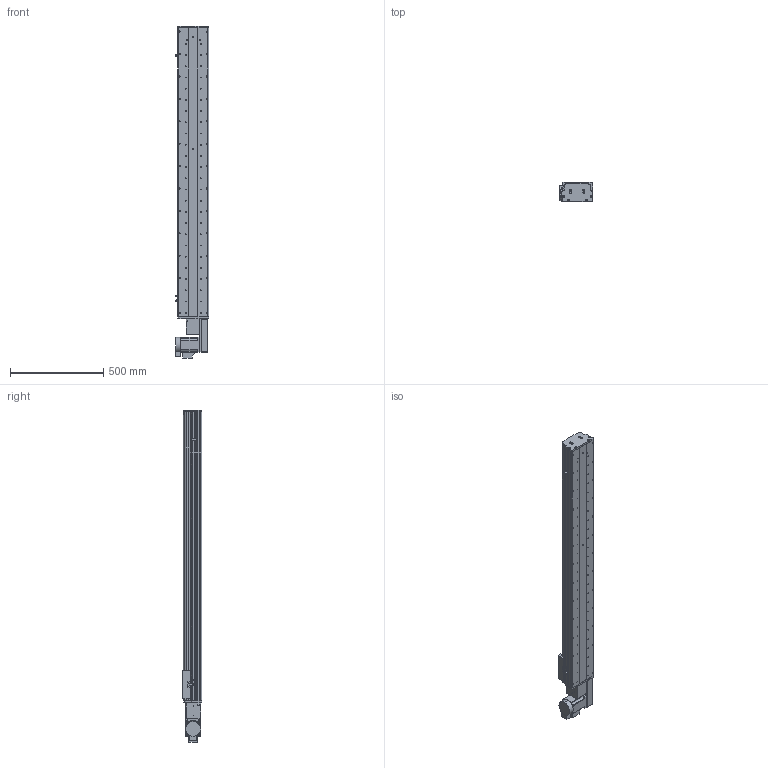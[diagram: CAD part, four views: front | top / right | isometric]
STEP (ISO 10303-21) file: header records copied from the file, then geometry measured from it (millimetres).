
FILE_DESCRIPTION (( 'STEP AP214' ), '1' );
FILE_NAME ('KSD165B-S1300-MRB-CM.STEP', '2017-10-16T09:04:42', ( '微软用户' ), ( '微软中国' ), 'SwSTEP 2.0', 'SolidWorks 2014', '' );
FILE_SCHEMA (( 'AUTOMOTIVE_DESIGN' ));
Length unit declared in the file: millimetre
Products named in the file (17): KSD165B-S1300-MRB-CM; HTPA26S5M250-A-H8 750W萇儂蚚; HTPA26S5M250-A-H8 400W萇儂蚚 ; 130宽模组马达安装板连板左右折同步带; 130宽模组保护罩上下左右折-同步带; KSD165模组-同步带防尘盖1-1300行程; KSD165模组同步带底板-1300行程; 拸秶雄ん750W侜督萇儂; 165宽马达安装板同步带右; U倰嫖萇假蚾璃; U倰嫖萇EEㄜSX672; 覜茼え68遵圉猾敕; KSD165模组-同步带-防撞垫2; KSD165模组同步带-防撞垫1; KSD165耀郪-ヶ傷啣1-肮祭湍; KSD165模组-后端板1-同步带; KSD165模组-同步带滑动座-最新版
Assembly tree (20 placements, depth 2):
  KSD165B-S1300-MRB-CM
    KSD165模组-同步带滑动座-最新版
    KSD165模组-后端板1-同步带
    KSD165耀郪-ヶ傷啣1-肮祭湍
    KSD165模组同步带-防撞垫1
    KSD165模组-同步带-防撞垫2
    覜茼え68遵圉猾敕
    U倰嫖萇EEㄜSX672  x3
    U倰嫖萇假蚾璃  x3
    165宽马达安装板同步带右
    拸秶雄ん750W侜督萇儂
    KSD165模组同步带底板-1300行程
    KSD165模组-同步带防尘盖1-1300行程
    130宽模组保护罩上下左右折-同步带
    130宽模组马达安装板连板左右折同步带
    HTPA26S5M250-A-H8 400W萇儂蚚 
    HTPA26S5M250-A-H8 750W萇儂蚚
Bounding box: 178.7 x 104 x 1777.5 mm (x, y, z)
Volume: 9273001.1 mm3; surface area: 2158361.6 mm2
Topology: 21 solids, 21 shells, 2015 faces, 5700 edges, 3724 vertices
Faces by surface type: cylinder 1311, plane 592, cone 112
Entity records: 66004 total; most frequent: CARTESIAN_POINT 13516, DIRECTION 10800, ORIENTED_EDGE 10060, EDGE_CURVE 5030, AXIS2_PLACEMENT_3D 4246, VERTEX_POINT 3316, CIRCLE 2428, LINE 2308
